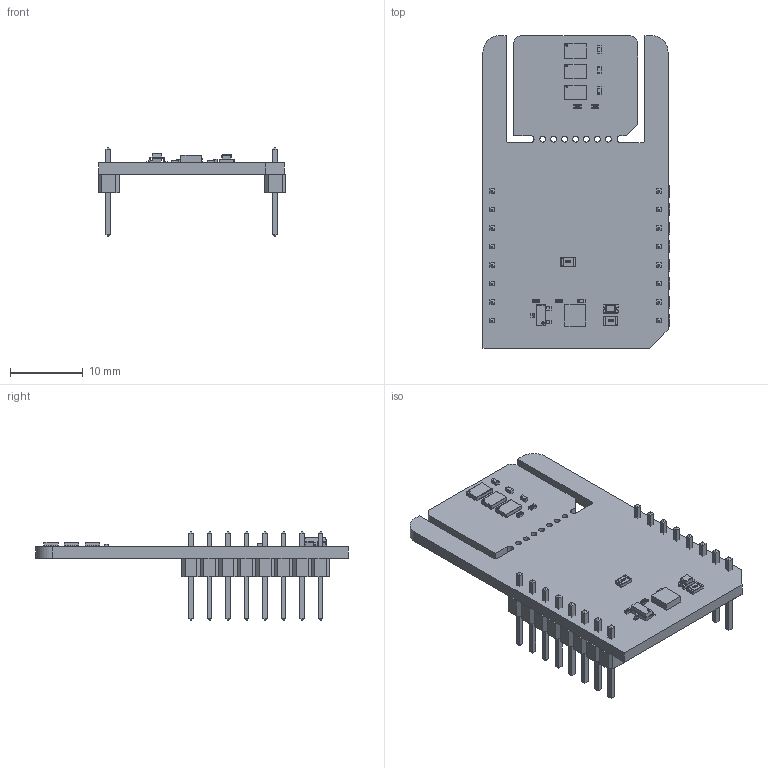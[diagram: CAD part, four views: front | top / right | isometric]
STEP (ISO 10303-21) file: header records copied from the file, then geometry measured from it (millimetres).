
FILE_DESCRIPTION(('Open CASCADE Model'),'2;1');
FILE_NAME('Open CASCADE Shape Model','2025-10-23T10:19:09',('Author'),( 'Open CASCADE'),'Open CASCADE STEP processor 6.8','Open CASCADE 6.8' ,'Unknown');
FILE_SCHEMA(('AUTOMOTIVE_DESIGN { 1 0 10303 214 1 1 1 1 }'));
Length unit declared in the file: millimetre
Products named in the file (33): PCB; Board; U1; 1129895208; Extruded; U4; User_Library-8MA3; U3; R4; User_Library-R_0402; R6; C4; User_Library-SMD_CAPACITOR0402; C3; C2; JP1; User_Library-R_0805; MBD1; Header_1x8; Free-Models; 1240637040; User_Library-PinHeaderX5-1_PinHeaderX5_Body_1; User_Library-PinHeaderX5-1_PinHeaderX5_Pins_1; U2; Q1; SOT23-3; R2; C1; R5; LD1; led_0805_green; R1
Assembly tree (43 placements, depth 7):
  PCB
    Board
    U1
      1129895208
        Extruded
    U4
      User_Library-8MA3
    U3
      User_Library-8MA3
    R4
      User_Library-R_0402
    R6
      User_Library-R_0402
    C4
      User_Library-SMD_CAPACITOR0402
    C3
      User_Library-SMD_CAPACITOR0402
    C2
      User_Library-SMD_CAPACITOR0402
    JP1
      User_Library-R_0805
    MBD1
      Header_1x8  x2
        PCB
          Free-Models
            1240637040  x2
              User_Library-PinHeaderX5-1_PinHeaderX5_Body_1
              User_Library-PinHeaderX5-1_PinHeaderX5_Pins_1
    U2
      User_Library-8MA3
    Q1
      SOT23-3
    R2
      User_Library-R_0402
    C1
      User_Library-SMD_CAPACITOR0402
    R5
      User_Library-R_0402
    LD1
      led_0805_green
    R1
      User_Library-R_0805
Bounding box: 25.78 x 42.93 x 12.19 mm (x, y, z)
Volume: 2155.1 mm3; surface area: 3913 mm2
Topology: 46 solids, 46 shells, 1595 faces, 4020 edges, 2518 vertices
Faces by surface type: plane 1147, bspline 188, cylinder 186, sphere 62, torus 12
Full cylindrical faces by diameter (mm): 0.8 x7
Entity records: 25186 total; most frequent: CARTESIAN_POINT 7414, ORIENTED_EDGE 2918, DIRECTION 2622, EDGE_CURVE 1459, LINE 1142, VECTOR 1142, VERTEX_POINT 932, AXIS2_PLACEMENT_3D 740
